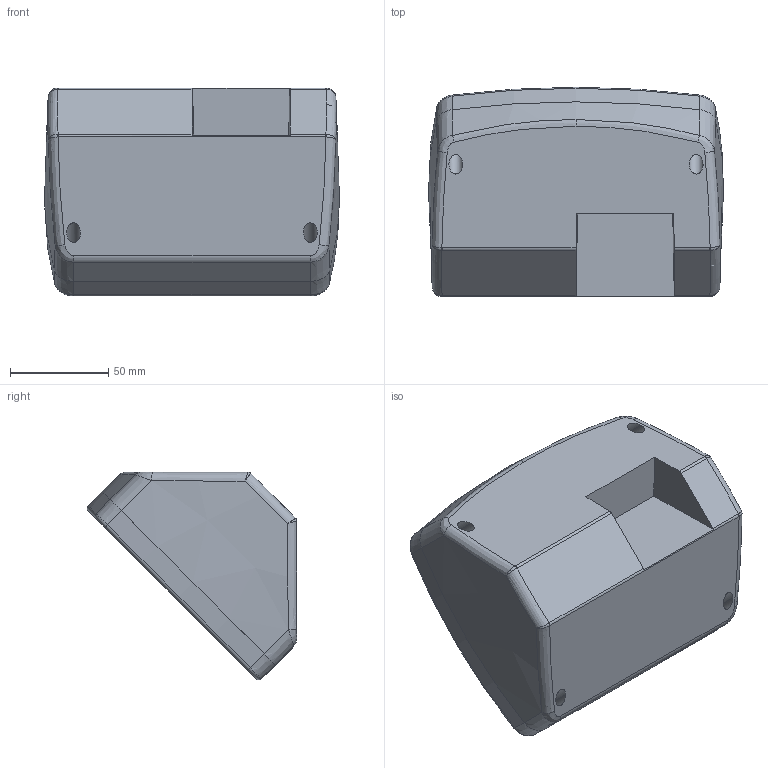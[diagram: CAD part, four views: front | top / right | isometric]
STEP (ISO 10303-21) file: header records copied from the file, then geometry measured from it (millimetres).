
FILE_DESCRIPTION (( 'STEP AP203' ), '1' );
FILE_NAME ('PT140.STEP', '2016-02-19T15:31:36', ( 'admin' ), ( 'Hewlett-Packard Company' ), 'SwSTEP 2.0', 'SolidWorks 2014', '' );
FILE_SCHEMA (( 'CONFIG_CONTROL_DESIGN' ));
Length unit declared in the file: millimetre
Products named in the file (3): PT140
Assembly tree (2 placements, depth 2):
  PT140
    PT140
    PT140
Bounding box: 149.97 x 106.46 x 105.75 mm (x, y, z)
Volume: 167994.3 mm3; surface area: 131922.5 mm2
Topology: 2 solids, 2 shells, 1111 faces, 2811 edges, 1849 vertices
Faces by surface type: plane 567, bspline 296, cylinder 120, cone 115, torus 10, sphere 3
Entity records: 48143 total; most frequent: CARTESIAN_POINT 22827, ORIENTED_EDGE 5614, DIRECTION 4255, EDGE_CURVE 2807, VERTEX_POINT 1849, VECTOR 1725, LINE 1725, EDGE_LOOP 1268
